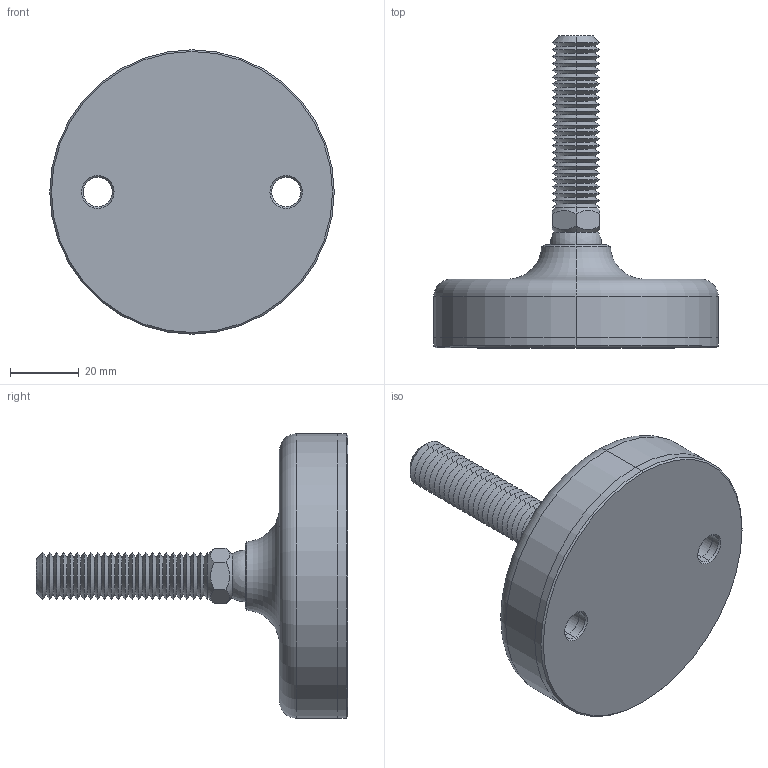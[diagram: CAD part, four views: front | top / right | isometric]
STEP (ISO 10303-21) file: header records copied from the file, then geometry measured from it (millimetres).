
FILE_DESCRIPTION (( 'STEP AP203' ), '1' );
FILE_NAME ('34724.W1400.step', '2019-11-28T22:09:28', ( '' ), ( '' ), 'SwSTEP 2.0', 'SolidWorks 2017', '' );
FILE_SCHEMA (( 'CONFIG_CONTROL_DESIGN' ));
Length unit declared in the file: millimetre
Products named in the file (4): Part2_34724.W1400; Part1_34724.W1400; Part3_34724.W1400; 34724.W1400
Assembly tree (3 placements, depth 2):
  34724.W1400
    Part1_34724.W1400
    Part2_34724.W1400
    Part3_34724.W1400
Bounding box: 83 x 91 x 83 mm (x, y, z)
Volume: 117029.2 mm3; surface area: 32195.6 mm2
Topology: 3 solids, 3 shells, 148 faces, 311 edges, 169 vertices
Faces by surface type: cone 114, plane 14, cylinder 12, sphere 4, torus 4
Entity records: 4358 total; most frequent: CARTESIAN_POINT 764, DIRECTION 756, ORIENTED_EDGE 604, AXIS2_PLACEMENT_3D 312, EDGE_CURVE 302, VERTEX_POINT 164, EDGE_LOOP 160, CIRCLE 158
